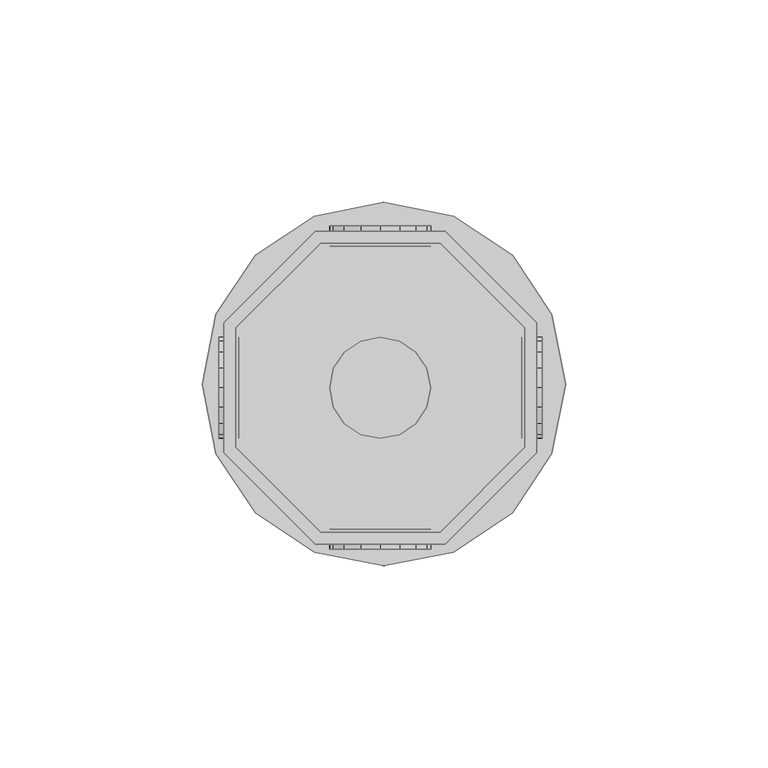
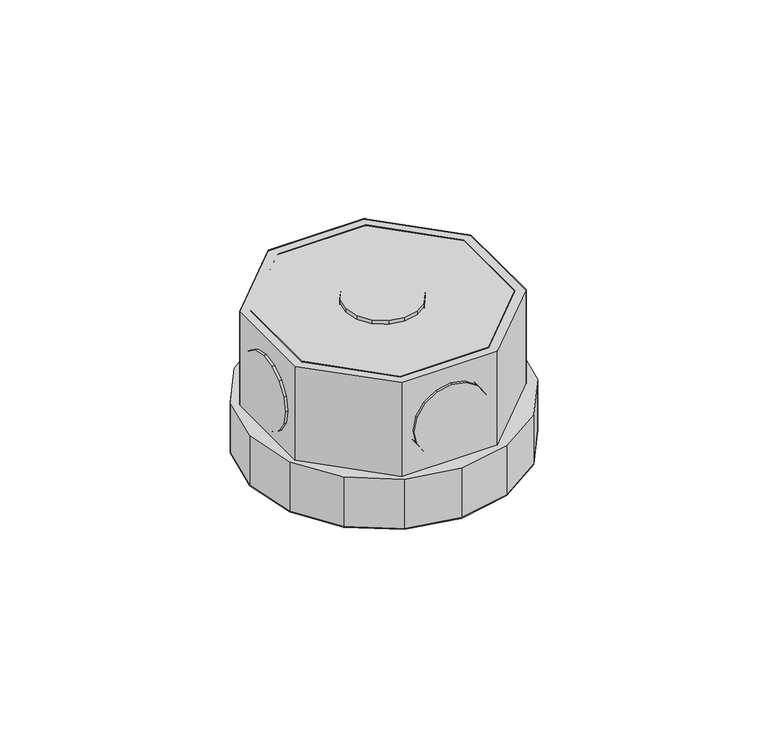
"""IFC4 building model written with IfcOpenShell, lengths in millimetres: light fixture geometry,  213044 :  213044."""

from ifc_helpers import new_model, si_unit, origin, place, context, project, spatial, triangles, source, transform, mapped, element, save


def light_fixture_1147f46a(model_context):
    return source(origin(), model_context, "Body", "Tessellation", [
        triangles([(5714.1000549, 9839.6005646, 2924.5999741), (5714.1000549, 9810.0000458, 2975.400071), (5714.1000549, 9810.0000458, 2924.5999741), (5714.1000549, 9839.6005646, 2975.400071), (5788.6001587, 9840.8004913, 2924.5999741), (5788.6001587, 9808.7001251, 2975.400071), (5788.6001587, 9808.7001251, 2924.5999741), (5788.6001587, 9840.8004913, 2975.400071), (5735.0999359, 9789.0001648, 2975.400071), (5735.0999359, 9789.0001648, 2924.5999741), (5765.8998001, 9863.5002686, 2924.5999741), (5765.8998001, 9863.5002686, 2975.400071), (5764.6998734, 9789.0001648, 2975.400071), (5764.6998734, 9789.0001648, 2924.5999741), (5733.8000153, 9863.5002686, 2924.5999741), (5733.8000153, 9863.5002686, 2975.400071), (5785.5997604, 9810.0000458, 2975.400071), (5785.5997604, 9810.0000458, 2924.5999741), (5711.100238, 9840.8004913, 2924.5999741), (5711.100238, 9840.8004913, 2975.400071), (5785.5997604, 9839.6005646, 2924.5999741), (5785.5997604, 9839.6005646, 2975.400071), (5711.100238, 9808.7001251, 2975.400071), (5711.100238, 9808.7001251, 2924.5999741), (5764.6998734, 9860.5004517, 2924.5999741), (5764.6998734, 9860.5004517, 2975.400071), (5733.8000153, 9786.0003479, 2975.400071), (5733.8000153, 9786.0003479, 2924.5999741), (5765.8998001, 9786.0003479, 2975.400071), (5735.0999359, 9860.5004517, 2975.400071), (5735.0999359, 9860.5004517, 2924.5999741), (5765.8998001, 9786.0003479, 2924.5999741), (5764.6998734, 9789.0001648, 2972.3999634), (5785.5997604, 9810.0000458, 2972.3999634), (5785.5997604, 9839.6005646, 2972.3999634), (5764.6998734, 9860.5004517, 2972.3999634), (5735.0999359, 9860.5004517, 2972.3999634), (5714.1000549, 9839.6005646, 2972.3999634), (5714.1000549, 9810.0000458, 2972.3999634), (5735.0999359, 9789.0001648, 2972.3999634), (5733.8000153, 9786.0003479, 2942.4000504), (5711.100238, 9808.7001251, 2942.4000504), (5711.100238, 9840.8004913, 2942.4000504), (5733.8000153, 9863.5002686, 2942.4000504), (5765.8998001, 9863.5002686, 2942.4000504), (5788.6001587, 9840.8004913, 2942.4000504), (5788.6001587, 9808.7001251, 2942.4000504), (5765.8998001, 9786.0003479, 2942.4000504), (5792.2999329, 9808.4001434, 2942.4000504), (5768.0002533, 9784.1004639, 2942.4000504), (5782.5999435, 9793.7998718, 2942.4000504), (5750.8001404, 9780.6995087, 2942.4000504), (5733.5000336, 9784.1004639, 2942.4000504), (5718.899762, 9793.7998718, 2942.4000504), (5709.1997726, 9808.4001434, 2942.4000504), (5705.7999802, 9825.7002502, 2942.4000504), (5709.1997726, 9842.9003632, 2942.4000504), (5733.5000336, 9867.2000427, 2942.4000504), (5718.899762, 9857.499472, 2942.4000504), (5795.7997192, 9825.7002502, 2942.4000504), (5792.2999329, 9842.9003632, 2942.4000504), (5782.5999435, 9857.499472, 2942.4000504), (5768.0002533, 9867.2000427, 2942.4000504), (5750.8001404, 9870.6998291, 2942.4000504), (5768.0002533, 9784.1004639, 2924.5999741), (5792.2999329, 9808.4001434, 2924.5999741), (5782.5999435, 9793.7998718, 2924.5999741), (5750.8001404, 9780.6995087, 2924.5999741), (5733.5000336, 9784.1004639, 2924.5999741), (5718.899762, 9793.7998718, 2924.5999741), (5709.1997726, 9808.4001434, 2924.5999741), (5705.7999802, 9825.7002502, 2924.5999741), (5709.1997726, 9842.9003632, 2924.5999741), (5733.5000336, 9867.2000427, 2924.5999741), (5718.899762, 9857.499472, 2924.5999741), (5795.7997192, 9825.7002502, 2924.5999741), (5792.2999329, 9842.9003632, 2924.5999741), (5782.5999435, 9857.499472, 2924.5999741), (5768.0002533, 9867.2000427, 2924.5999741), (5750.8001404, 9870.6998291, 2924.5999741), (5709.8997299, 9813.1998505, 2952.6000092), (5709.8997299, 9819.9994354, 2945.9001274), (5709.8997299, 9815.8996857, 2948.5999626), (5709.8997299, 9812.2999054, 2957.4000069), (5709.8997299, 9824.8003052, 2944.8998978), (5709.8997299, 9813.1998505, 2962.2000046), (5709.8997299, 9829.6000122, 2945.9001274), (5709.8997299, 9815.8996857, 2966.2000511), (5709.8997299, 9833.5997681, 2948.5999626), (5709.8997299, 9819.9994354, 2968.8998863), (5709.8997299, 9836.2996033, 2952.6000092), (5709.8997299, 9824.8003052, 2969.900116), (5709.8997299, 9837.2995422, 2957.4000069), (5709.8997299, 9829.6000122, 2968.8998863), (5709.8997299, 9836.2996033, 2962.2000046), (5709.8997299, 9833.5997681, 2966.2000511), (5714.9000061, 9819.9994354, 2945.9001274), (5714.9000061, 9813.1998505, 2952.6000092), (5714.9000061, 9815.8996857, 2948.5999626), (5714.9000061, 9824.8003052, 2944.8998978), (5714.9000061, 9812.2999054, 2957.4000069), (5714.9000061, 9829.6000122, 2945.9001274), (5714.9000061, 9813.1998505, 2962.2000046), (5714.9000061, 9833.5997681, 2948.5999626), (5714.9000061, 9815.8996857, 2966.2000511), (5714.9000061, 9819.9994354, 2968.8998863), (5714.9000061, 9836.2996033, 2952.6000092), (5714.9000061, 9824.8003052, 2969.900116), (5714.9000061, 9837.2995422, 2957.4000069), (5714.9000061, 9829.6000122, 2968.8998863), (5714.9000061, 9836.2996033, 2962.2000046), (5714.9000061, 9833.5997681, 2966.2000511), (5784.8998032, 9813.1998505, 2952.6000092), (5784.8998032, 9819.9994354, 2945.9001274), (5784.8998032, 9815.8996857, 2948.5999626), (5784.8998032, 9812.2999054, 2957.4000069), (5784.8998032, 9824.8003052, 2944.8998978), (5784.8998032, 9813.1998505, 2962.2000046), (5784.8998032, 9829.6000122, 2945.9001274), (5784.8998032, 9815.8996857, 2966.2000511), (5784.8998032, 9833.5997681, 2948.5999626), (5784.8998032, 9819.9994354, 2968.8998863), (5784.8998032, 9836.2996033, 2952.6000092), (5784.8998032, 9824.8003052, 2969.900116), (5784.8998032, 9837.2995422, 2957.4000069), (5784.8998032, 9829.6000122, 2968.8998863), (5784.8998032, 9836.2996033, 2962.2000046), (5784.8998032, 9833.5997681, 2966.2000511), (5789.9000793, 9819.9994354, 2945.9001274), (5789.9000793, 9813.1998505, 2952.6000092), (5789.9000793, 9815.8996857, 2948.5999626), (5789.9000793, 9824.8003052, 2944.8998978), (5789.9000793, 9812.2999054, 2957.4000069), (5789.9000793, 9829.6000122, 2945.9001274), (5789.9000793, 9813.1998505, 2962.2000046), (5789.9000793, 9833.5997681, 2948.5999626), (5789.9000793, 9815.8996857, 2966.2000511), (5789.9000793, 9819.9994354, 2968.8998863), (5789.9000793, 9836.2996033, 2952.6000092), (5789.9000793, 9824.8003052, 2969.900116), (5789.9000793, 9837.2995422, 2957.4000069), (5789.9000793, 9829.6000122, 2968.8998863), (5789.9000793, 9836.2996033, 2962.2000046), (5789.9000793, 9833.5997681, 2966.2000511), (5754.6999023, 9789.800116, 2945.9001274), (5761.4000748, 9789.800116, 2952.6000092), (5758.7002396, 9789.800116, 2948.5999626), (5749.9001953, 9789.800116, 2944.8998978), (5762.4000137, 9789.800116, 2957.4000069), (5745.0999069, 9789.800116, 2945.9001274), (5761.4000748, 9789.800116, 2962.2000046), (5741.0001572, 9789.800116, 2948.5999626), (5758.7002396, 9789.800116, 2966.2000511), (5754.6999023, 9789.800116, 2968.8998863), (5738.2997406, 9789.800116, 2952.6000092), (5749.9001953, 9789.800116, 2969.900116), (5737.3997955, 9789.800116, 2957.4000069), (5745.0999069, 9789.800116, 2968.8998863), (5738.2997406, 9789.800116, 2962.2000046), (5741.0001572, 9789.800116, 2966.2000511), (5761.4000748, 9784.8004211, 2952.6000092), (5754.6999023, 9784.8004211, 2945.9001274), (5758.7002396, 9784.8004211, 2948.5999626), (5762.4000137, 9784.8004211, 2957.4000069), (5749.9001953, 9784.8004211, 2944.8998978), (5761.4000748, 9784.8004211, 2962.2000046), (5745.0999069, 9784.8004211, 2945.9001274), (5758.7002396, 9784.8004211, 2966.2000511), (5741.0001572, 9784.8004211, 2948.5999626), (5754.6999023, 9784.8004211, 2968.8998863), (5738.2997406, 9784.8004211, 2952.6000092), (5749.9001953, 9784.8004211, 2969.900116), (5737.3997955, 9784.8004211, 2957.4000069), (5745.0999069, 9784.8004211, 2968.8998863), (5738.2997406, 9784.8004211, 2962.2000046), (5741.0001572, 9784.8004211, 2966.2000511), (5754.6999023, 9864.8001892, 2945.9001274), (5761.4000748, 9864.8001892, 2952.6000092), (5758.7002396, 9864.8001892, 2948.5999626), (5749.9001953, 9864.8001892, 2944.8998978), (5762.4000137, 9864.8001892, 2957.4000069), (5745.0999069, 9864.8001892, 2945.9001274), (5761.4000748, 9864.8001892, 2962.2000046), (5741.0001572, 9864.8001892, 2948.5999626), (5758.7002396, 9864.8001892, 2966.2000511), (5754.6999023, 9864.8001892, 2968.8998863), (5738.2997406, 9864.8001892, 2952.6000092), (5749.9001953, 9864.8001892, 2969.900116), (5737.3997955, 9864.8001892, 2957.4000069), (5745.0999069, 9864.8001892, 2968.8998863), (5738.2997406, 9864.8001892, 2962.2000046), (5741.0001572, 9864.8001892, 2966.2000511), (5761.4000748, 9859.8004944, 2952.6000092), (5754.6999023, 9859.8004944, 2945.9001274), (5758.7002396, 9859.8004944, 2948.5999626), (5762.4000137, 9859.8004944, 2957.4000069), (5749.9001953, 9859.8004944, 2944.8998978), (5761.4000748, 9859.8004944, 2962.2000046), (5745.0999069, 9859.8004944, 2945.9001274), (5758.7002396, 9859.8004944, 2966.2000511), (5741.0001572, 9859.8004944, 2948.5999626), (5754.6999023, 9859.8004944, 2968.8998863), (5738.2997406, 9859.8004944, 2952.6000092), (5749.9001953, 9859.8004944, 2969.900116), (5737.3997955, 9859.8004944, 2957.4000069), (5745.0999069, 9859.8004944, 2968.8998863), (5738.2997406, 9859.8004944, 2962.2000046), (5741.0001572, 9859.8004944, 2966.2000511), (5761.4000748, 9819.9994354, 2976.9999733), (5754.6999023, 9813.1998505, 2976.9999733), (5758.7002396, 9815.8996857, 2976.9999733), (5749.9001953, 9812.2999054, 2976.9999733), (5762.4000137, 9824.8003052, 2976.9999733), (5745.0999069, 9813.1998505, 2976.9999733), (5761.4000748, 9829.6000122, 2976.9999733), (5741.0001572, 9815.8996857, 2976.9999733), (5758.7002396, 9833.5997681, 2976.9999733), (5738.2997406, 9819.9994354, 2976.9999733), (5754.6999023, 9836.2996033, 2976.9999733), (5737.3997955, 9824.8003052, 2976.9999733), (5749.9001953, 9837.2995422, 2976.9999733), (5738.2997406, 9829.6000122, 2976.9999733), (5745.0999069, 9836.2996033, 2976.9999733), (5741.0001572, 9833.5997681, 2976.9999733), (5754.6999023, 9813.1998505, 2971.9999878), (5761.4000748, 9819.9994354, 2971.9999878), (5758.7002396, 9815.8996857, 2971.9999878), (5749.9001953, 9812.2999054, 2971.9999878), (5762.4000137, 9824.8003052, 2971.9999878), (5745.0999069, 9813.1998505, 2971.9999878), (5761.4000748, 9829.6000122, 2971.9999878), (5741.0001572, 9815.8996857, 2971.9999878), (5758.7002396, 9833.5997681, 2971.9999878), (5738.2997406, 9819.9994354, 2971.9999878), (5754.6999023, 9836.2996033, 2971.9999878), (5737.3997955, 9824.8003052, 2971.9999878), (5749.9001953, 9837.2995422, 2971.9999878), (5738.2997406, 9829.6000122, 2971.9999878), (5745.0999069, 9836.2996033, 2971.9999878), (5741.0001572, 9833.5997681, 2971.9999878)], [[1, 2, 3], [2, 1, 4], [5, 6, 7], [6, 5, 8], [3, 9, 10], [9, 3, 2], [11, 8, 5], [8, 11, 12], [10, 13, 14], [13, 10, 9], [15, 12, 11], [12, 15, 16], [14, 17, 18], [17, 14, 13], [19, 16, 15], [16, 19, 20], [17, 21, 18], [21, 17, 22], [23, 19, 24], [19, 23, 20], [22, 25, 21], [25, 22, 26], [27, 24, 28], [24, 27, 23], [6, 13, 29], [29, 13, 27], [27, 13, 9], [27, 9, 23], [23, 9, 2], [23, 2, 4], [23, 4, 20], [20, 4, 30], [8, 17, 6], [6, 17, 13], [17, 8, 22], [12, 22, 8], [22, 12, 26], [30, 26, 12], [16, 30, 12], [20, 30, 16], [30, 1, 31], [1, 30, 4], [6, 32, 7], [32, 6, 29], [32, 14, 7], [28, 14, 32], [14, 28, 10], [24, 10, 28], [10, 24, 3], [1, 3, 24], [19, 1, 24], [31, 1, 19], [7, 18, 5], [14, 18, 7], [5, 18, 21], [5, 21, 11], [11, 21, 25], [11, 25, 31], [11, 31, 15], [15, 31, 19], [26, 31, 25], [31, 26, 30], [29, 28, 32], [28, 29, 27], [17, 33, 34], [33, 17, 13], [35, 17, 34], [17, 35, 22], [36, 22, 35], [22, 36, 26], [37, 26, 36], [26, 37, 30], [38, 30, 37], [30, 38, 4], [2, 38, 39], [38, 2, 4], [17, 9, 13], [9, 17, 22], [9, 22, 2], [2, 22, 26], [2, 26, 4], [4, 26, 30], [13, 40, 33], [40, 13, 9], [40, 34, 33], [35, 34, 40], [35, 40, 39], [35, 39, 36], [36, 39, 38], [36, 38, 37], [9, 39, 40], [39, 9, 2], [24, 41, 28], [41, 24, 42], [19, 42, 24], [42, 19, 43], [44, 19, 15], [19, 44, 43], [45, 15, 11], [15, 45, 44], [46, 11, 5], [11, 46, 45], [47, 5, 7], [5, 47, 46], [32, 47, 7], [47, 32, 48], [28, 48, 32], [48, 28, 41], [49, 50, 51], [48, 50, 49], [50, 48, 52], [41, 52, 48], [52, 41, 53], [53, 41, 54], [42, 54, 41], [54, 42, 55], [55, 42, 43], [55, 43, 56], [56, 43, 57], [57, 43, 44], [57, 44, 58], [57, 58, 59], [47, 49, 60], [49, 47, 48], [47, 60, 46], [61, 46, 60], [46, 61, 62], [46, 62, 45], [45, 62, 63], [44, 45, 63], [44, 63, 64], [44, 64, 58], [65, 66, 67], [66, 65, 32], [68, 32, 65], [32, 68, 28], [28, 68, 69], [70, 28, 69], [28, 70, 24], [71, 24, 70], [19, 24, 71], [19, 71, 72], [73, 19, 72], [19, 73, 15], [74, 15, 73], [74, 73, 75], [76, 66, 7], [32, 7, 66], [5, 76, 7], [76, 5, 77], [77, 5, 78], [11, 78, 5], [78, 11, 79], [79, 11, 15], [79, 15, 80], [80, 15, 74], [57, 75, 73], [75, 57, 59], [56, 73, 72], [73, 56, 57], [55, 72, 71], [72, 55, 56], [54, 71, 70], [71, 54, 55], [53, 70, 69], [70, 53, 54], [52, 69, 68], [69, 52, 53], [50, 68, 65], [68, 50, 52], [51, 65, 67], [65, 51, 50], [66, 51, 67], [51, 66, 49], [76, 49, 66], [49, 76, 60], [77, 60, 76], [60, 77, 61], [78, 61, 77], [61, 78, 62], [79, 62, 78], [62, 79, 63], [80, 63, 79], [63, 80, 64], [75, 58, 74], [58, 75, 59], [74, 64, 80], [64, 74, 58], [81, 82, 83], [82, 81, 84], [85, 82, 84], [85, 84, 86], [87, 85, 86], [87, 86, 88], [87, 88, 89], [89, 88, 90], [89, 90, 91], [91, 90, 92], [91, 92, 93], [93, 92, 94], [93, 94, 95], [95, 94, 96], [97, 98, 99], [98, 97, 100], [101, 98, 100], [101, 100, 102], [103, 101, 102], [103, 102, 104], [103, 104, 105], [105, 104, 106], [106, 104, 107], [106, 107, 108], [108, 107, 109], [108, 109, 110], [110, 109, 111], [110, 111, 112], [87, 104, 102], [104, 87, 89], [85, 102, 100], [102, 85, 87], [82, 100, 97], [100, 82, 85], [83, 97, 99], [97, 83, 82], [98, 83, 99], [83, 98, 81], [101, 81, 98], [81, 101, 84], [103, 84, 101], [84, 103, 86], [105, 86, 103], [86, 105, 88], [106, 88, 105], [88, 106, 90], [108, 90, 106], [90, 108, 92], [110, 92, 108], [92, 110, 94], [112, 94, 110], [94, 112, 96], [95, 112, 111], [112, 95, 96], [93, 111, 109], [111, 93, 95], [89, 107, 104], [107, 89, 91], [91, 109, 107], [109, 91, 93], [113, 114, 115], [114, 113, 116], [117, 114, 116], [117, 116, 118], [119, 117, 118], [119, 118, 120], [119, 120, 121], [121, 120, 122], [121, 122, 123], [123, 122, 124], [123, 124, 125], [125, 124, 126], [125, 126, 127], [127, 126, 128], [129, 130, 131], [130, 129, 132], [133, 130, 132], [133, 132, 134], [135, 133, 134], [135, 134, 136], [135, 136, 137], [137, 136, 138], [138, 136, 139], [138, 139, 140], [140, 139, 141], [140, 141, 142], [142, 141, 143], [142, 143, 144], [119, 136, 134], [136, 119, 121], [117, 134, 132], [134, 117, 119], [114, 132, 129], [132, 114, 117], [115, 129, 131], [129, 115, 114], [130, 115, 131], [115, 130, 113], [133, 113, 130], [113, 133, 116], [135, 116, 133], [116, 135, 118], [137, 118, 135], [118, 137, 120], [138, 120, 137], [120, 138, 122], [140, 122, 138], [122, 140, 124], [142, 124, 140], [124, 142, 126], [144, 126, 142], [126, 144, 128], [127, 144, 143], [144, 127, 128], [125, 143, 141], [143, 125, 127], [121, 139, 136], [139, 121, 123], [123, 141, 139], [141, 123, 125], [145, 146, 147], [146, 145, 148], [149, 146, 148], [149, 148, 150], [151, 149, 150], [151, 150, 152], [151, 152, 153], [153, 152, 154], [154, 152, 155], [154, 155, 156], [156, 155, 157], [156, 157, 158], [158, 157, 159], [158, 159, 160], [161, 162, 163], [162, 161, 164], [165, 162, 164], [165, 164, 166], [167, 165, 166], [167, 166, 168], [169, 167, 168], [169, 168, 170], [169, 170, 171], [171, 170, 172], [171, 172, 173], [173, 172, 174], [173, 174, 175], [175, 174, 176], [158, 176, 174], [176, 158, 160], [156, 174, 172], [174, 156, 158], [154, 172, 170], [172, 154, 156], [153, 170, 168], [170, 153, 154], [151, 168, 166], [168, 151, 153], [149, 166, 164], [166, 149, 151], [146, 164, 161], [164, 146, 149], [147, 161, 163], [161, 147, 146], [162, 147, 163], [147, 162, 145], [165, 145, 162], [145, 165, 148], [167, 148, 165], [148, 167, 150], [169, 150, 167], [150, 169, 152], [171, 152, 169], [152, 171, 155], [173, 155, 171], [155, 173, 157], [176, 159, 175], [159, 176, 160], [175, 157, 173], [157, 175, 159], [177, 178, 179], [178, 177, 180], [181, 178, 180], [181, 180, 182], [183, 181, 182], [183, 182, 184], [183, 184, 185], [185, 184, 186], [186, 184, 187], [186, 187, 188], [188, 187, 189], [188, 189, 190], [190, 189, 191], [190, 191, 192], [193, 194, 195], [194, 193, 196], [197, 194, 196], [197, 196, 198], [199, 197, 198], [199, 198, 200], [201, 199, 200], [201, 200, 202], [201, 202, 203], [203, 202, 204], [203, 204, 205], [205, 204, 206], [205, 206, 207], [207, 206, 208], [190, 208, 206], [208, 190, 192], [188, 206, 204], [206, 188, 190], [186, 204, 202], [204, 186, 188], [185, 202, 200], [202, 185, 186], [183, 200, 198], [200, 183, 185], [181, 198, 196], [198, 181, 183], [178, 196, 193], [196, 178, 181], [179, 193, 195], [193, 179, 178], [194, 179, 195], [179, 194, 177], [197, 177, 194], [177, 197, 180], [199, 180, 197], [180, 199, 182], [201, 182, 199], [182, 201, 184], [203, 184, 201], [184, 203, 187], [205, 187, 203], [187, 205, 189], [208, 191, 207], [191, 208, 192], [207, 189, 205], [189, 207, 191], [209, 210, 211], [212, 210, 209], [212, 209, 213], [214, 212, 213], [214, 213, 215], [216, 214, 215], [216, 215, 217], [216, 217, 218], [218, 217, 219], [218, 219, 220], [220, 219, 221], [220, 221, 222], [222, 221, 223], [222, 223, 224], [225, 226, 227], [226, 225, 228], [229, 226, 228], [229, 228, 230], [231, 229, 230], [231, 230, 232], [231, 232, 233], [233, 232, 234], [233, 234, 235], [235, 234, 236], [235, 236, 237], [237, 236, 238], [237, 238, 239], [239, 238, 240], [222, 240, 238], [240, 222, 224], [220, 238, 236], [238, 220, 222], [218, 236, 234], [236, 218, 220], [216, 234, 232], [234, 216, 218], [214, 232, 230], [232, 214, 216], [212, 230, 228], [230, 212, 214], [210, 228, 225], [228, 210, 212], [211, 225, 227], [225, 211, 210], [226, 211, 227], [211, 226, 209], [229, 209, 226], [209, 229, 213], [231, 213, 229], [213, 231, 215], [233, 215, 231], [215, 233, 217], [235, 217, 233], [217, 235, 219], [237, 219, 235], [219, 237, 221], [240, 223, 239], [223, 240, 224], [239, 221, 237], [221, 239, 223]], closed=False),
    ])


if __name__ == "__main__":
    model = new_model("IFC4")
    model_context = context("Model", 3, world=origin())
    ifc_project = project(units=[si_unit("LENGTHUNIT", "METRE", prefix="MILLI")], contexts=[model_context])
    site = spatial("IfcSite", under=ifc_project)
    building = spatial("IfcBuilding", under=site)
    placement = place(None, origin())
    light_fixture_shape = light_fixture_1147f46a(model_context)
    element("IfcLightFixture", 1, ObjectType=" 213044 :  213044", at=placement, inside=building, context=model_context, shape_type="MappedRepresentation", body=[
        mapped(light_fixture_shape, transform((0.0, 0.0, 0.0), x_axis=(1.0, 0.0, 0.0), y_axis=(0.0, 1.0, 0.0), z_axis=(0.0, 0.0, 1.0))),
    ])
    save(model, "model.ifc")
